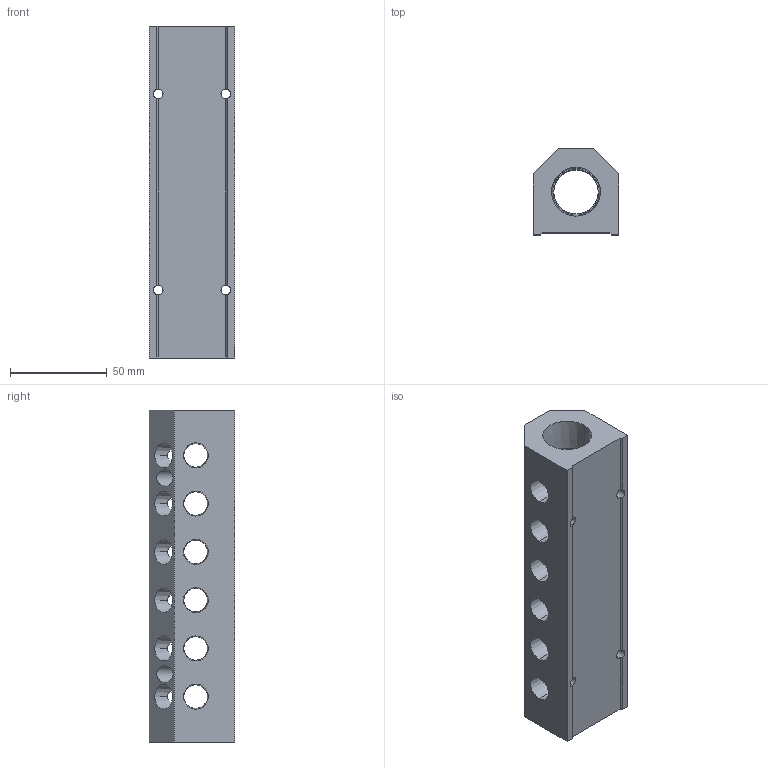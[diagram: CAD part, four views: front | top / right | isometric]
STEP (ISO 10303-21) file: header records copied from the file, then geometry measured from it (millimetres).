
FILE_DESCRIPTION (( 'STEP AP214' ), '1' );
FILE_NAME ('ALM6ABCDE-N4N12-172B.step', '2022-02-06T14:10:31', ( '' ), ( '' ), 'SwSTEP 2.0', 'SolidWorks 2020', '' );
FILE_SCHEMA (( 'AUTOMOTIVE_DESIGN' ));
Length unit declared in the file: millimetre
Products named in the file (1): ALM6ABCDE-N4N12-172B
Bounding box: 44.5 x 44.5 x 172 mm (x, y, z)
Volume: 186556.9 mm3; surface area: 51247.1 mm2
Topology: 1 solids, 1 shells, 406 faces, 1183 edges, 786 vertices
Faces by surface type: plane 240, cone 74, bspline 58, cylinder 34
Entity records: 20159 total; most frequent: CARTESIAN_POINT 9264, ORIENTED_EDGE 2366, DIRECTION 1669, EDGE_CURVE 1183, VERTEX_POINT 786, LINE 739, VECTOR 739, EDGE_LOOP 483
